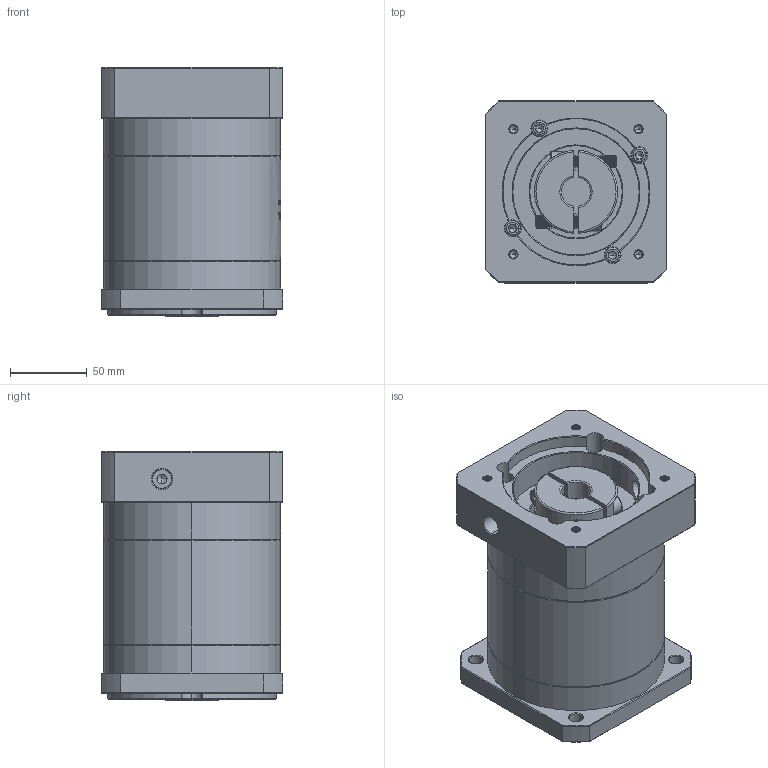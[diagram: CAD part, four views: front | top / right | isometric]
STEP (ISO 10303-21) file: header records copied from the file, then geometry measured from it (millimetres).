
FILE_DESCRIPTION (( 'STEP AP214' ), '1' );
FILE_NAME ('ZF120A-K25-L2-19-95-115-M6.step', '2023-03-07T09:37:38', ( '' ), ( '' ), 'SwSTEP 2.0', 'SolidWorks 2016', '' );
FILE_SCHEMA (( 'AUTOMOTIVE_DESIGN' ));
Length unit declared in the file: millimetre
Products named in the file (1): ZF120A-K25-L2-19-95-115-M6
Bounding box: 118 x 118 x 162 mm (x, y, z)
Volume: 1616372.4 mm3; surface area: 165725 mm2
Topology: 6 solids, 6 shells, 1904 faces, 5007 edges, 3197 vertices
Faces by surface type: plane 850, cylinder 388, cone 334, bspline 332
Entity records: 101488 total; most frequent: CARTESIAN_POINT 37116, ORIENTED_EDGE 9958, DIRECTION 7772, EDGE_CURVE 4979, VERTEX_POINT 3197, VECTOR 2698, LINE 2698, AXIS2_PLACEMENT_3D 2537
